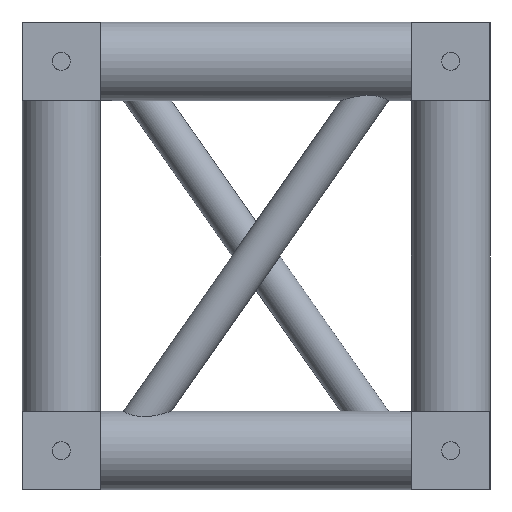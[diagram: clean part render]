
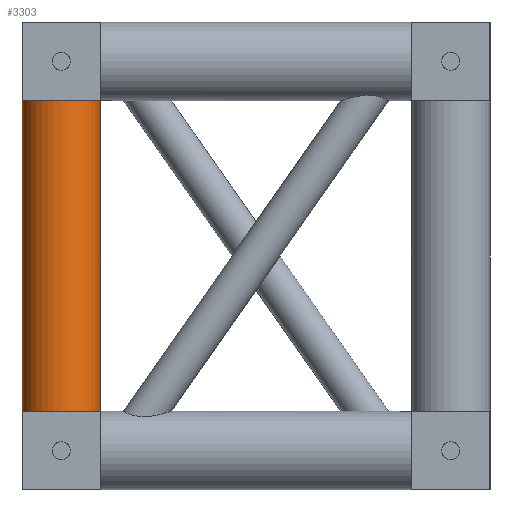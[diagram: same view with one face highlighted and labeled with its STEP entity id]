
A CAD part, front view. The second image highlights one B-rep face of the part: STEP entity #3303.
In plain terms, the highlighted cylindrical face has radius 30 mm (diameter 60 mm), a full revolution.
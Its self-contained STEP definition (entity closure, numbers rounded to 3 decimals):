
#353=ELLIPSE('',#3478,52.303,30.);
#619=FACE_BOUND('',#996,.T.);
#620=FACE_BOUND('',#997,.T.);
#762=FACE_OUTER_BOUND('',#995,.T.);
#995=EDGE_LOOP('',(#2276,#2277,#2278,#2279));
#996=EDGE_LOOP('',(#2280,#2281));
#997=EDGE_LOOP('',(#2282,#2283,#2284,#2285));
#1286=CIRCLE('',#3576,30.);
#1287=CIRCLE('',#3577,30.);
#1288=CIRCLE('',#3578,30.);
#1289=CIRCLE('',#3579,30.);
#1290=CIRCLE('',#3580,30.);
#1291=CIRCLE('',#3581,30.);
#1292=CIRCLE('',#3582,30.);
#1293=CIRCLE('',#3583,30.);
#1394=B_SPLINE_CURVE_WITH_KNOTS('',3,(#5389,#5390,#5391,#5392,#5393,#5394,
#5395,#5396,#5397,#5398,#5399,#5400,#5401,#5402,#5403,#5404,#5405,#5406,
#5407,#5408,#5409,#5410,#5411,#5412,#5413,#5414,#5415,#5416,#5417,#5418,
#5419,#5420,#5421,#5422,#5423,#5424,#5425,#5426,#5427,#5428,#5429,#5430,
#5431,#5432,#5433,#5434,#5435,#5436,#5437,#5438,#5439,#5440,#5441,#5442,
#5443),.UNSPECIFIED.,.F.,.F.,(4,2,2,2,2,2,2,2,3,2,2,2,2,2,2,2,2,2,2,2,2,
2,2,2,2,2,4),(8.174,8.187,8.469,8.75,
9.031,9.343,9.655,9.967,10.279,
11.015,11.75,12.398,12.722,13.046,
13.37,13.694,14.341,15.077,15.812,
16.124,16.436,16.748,17.06,17.342,
17.623,17.904,17.917),.UNSPECIFIED.);
#1409=VERTEX_POINT('',#5387);
#1410=VERTEX_POINT('',#5388);
#1443=VERTEX_POINT('',#5805);
#1471=VERTEX_POINT('',#5901);
#1489=VERTEX_POINT('',#5956);
#1490=VERTEX_POINT('',#5957);
#1491=VERTEX_POINT('',#5960);
#1492=VERTEX_POINT('',#5963);
#1493=VERTEX_POINT('',#5964);
#1494=VERTEX_POINT('',#5966);
#1678=EDGE_CURVE('',#1409,#1410,#1394,.T.);
#1681=EDGE_CURVE('',#1410,#1409,#353,.T.);
#1794=EDGE_CURVE('',#1489,#1490,#1286,.T.);
#1795=EDGE_CURVE('',#1443,#1489,#1287,.T.);
#1796=EDGE_CURVE('',#1491,#1443,#1288,.T.);
#1797=EDGE_CURVE('',#1490,#1491,#1289,.T.);
#1798=EDGE_CURVE('',#1492,#1493,#1290,.T.);
#1799=EDGE_CURVE('',#1494,#1492,#1291,.T.);
#1800=EDGE_CURVE('',#1471,#1494,#1292,.T.);
#1801=EDGE_CURVE('',#1493,#1471,#1293,.T.);
#2276=ORIENTED_EDGE('',*,*,#1794,.F.);
#2277=ORIENTED_EDGE('',*,*,#1795,.F.);
#2278=ORIENTED_EDGE('',*,*,#1796,.F.);
#2279=ORIENTED_EDGE('',*,*,#1797,.F.);
#2280=ORIENTED_EDGE('',*,*,#1678,.T.);
#2281=ORIENTED_EDGE('',*,*,#1681,.T.);
#2282=ORIENTED_EDGE('',*,*,#1798,.F.);
#2283=ORIENTED_EDGE('',*,*,#1799,.F.);
#2284=ORIENTED_EDGE('',*,*,#1800,.F.);
#2285=ORIENTED_EDGE('',*,*,#1801,.F.);
#2972=CYLINDRICAL_SURFACE('',#3575,30.);
#3303=ADVANCED_FACE('',(#762,#619,#620),#2972,.T.);
#3478=AXIS2_PLACEMENT_3D('',#5501,#3963,#3964);
#3575=AXIS2_PLACEMENT_3D('',#5955,#4219,#4220);
#3576=AXIS2_PLACEMENT_3D('',#5958,#4221,#4222);
#3577=AXIS2_PLACEMENT_3D('',#5959,#4223,#4224);
#3578=AXIS2_PLACEMENT_3D('',#5961,#4225,#4226);
#3579=AXIS2_PLACEMENT_3D('',#5962,#4227,#4228);
#3580=AXIS2_PLACEMENT_3D('',#5965,#4229,#4230);
#3581=AXIS2_PLACEMENT_3D('',#5967,#4231,#4232);
#3582=AXIS2_PLACEMENT_3D('',#5968,#4233,#4234);
#3583=AXIS2_PLACEMENT_3D('',#5969,#4235,#4236);
#3963=DIRECTION('center_axis',(0.,-0.819,-0.574));
#3964=DIRECTION('ref_axis',(0.,-0.574,0.819));
#4219=DIRECTION('center_axis',(0.,0.,
1.));
#4220=DIRECTION('ref_axis',(0.578,-0.816,0.));
#4221=DIRECTION('center_axis',(0.,0.,
1.));
#4222=DIRECTION('ref_axis',(0.578,-0.816,0.));
#4223=DIRECTION('center_axis',(0.,0.,
1.));
#4224=DIRECTION('ref_axis',(0.578,-0.816,0.));
#4225=DIRECTION('center_axis',(0.,0.,
1.));
#4226=DIRECTION('ref_axis',(0.578,-0.816,0.));
#4227=DIRECTION('center_axis',(0.,0.,
1.));
#4228=DIRECTION('ref_axis',(0.578,-0.816,0.));
#4229=DIRECTION('center_axis',(0.,0.,
-1.));
#4230=DIRECTION('ref_axis',(0.578,-0.816,0.));
#4231=DIRECTION('center_axis',(0.,0.,
-1.));
#4232=DIRECTION('ref_axis',(0.578,-0.816,0.));
#4233=DIRECTION('center_axis',(0.,0.,
-1.));
#4234=DIRECTION('ref_axis',(0.578,-0.816,0.));
#4235=DIRECTION('center_axis',(0.,0.,
-1.));
#4236=DIRECTION('ref_axis',(0.578,-0.816,0.));
#5387=CARTESIAN_POINT('',(2.736,-267.125,-249.573));
#5388=CARTESIAN_POINT('',(-2.736,-267.125,-249.573));
#5389=CARTESIAN_POINT('Ctrl Pts',(2.736,-267.125,-249.573));
#5390=CARTESIAN_POINT('Ctrl Pts',(2.781,-267.129,-249.566));
#5391=CARTESIAN_POINT('Ctrl Pts',(2.826,-267.133,-249.558));
#5392=CARTESIAN_POINT('Ctrl Pts',(3.836,-267.23,-249.386));
#5393=CARTESIAN_POINT('Ctrl Pts',(4.794,-267.371,-249.134));
#5394=CARTESIAN_POINT('Ctrl Pts',(6.631,-267.727,-248.46));
#5395=CARTESIAN_POINT('Ctrl Pts',(7.511,-267.943,-248.037));
#5396=CARTESIAN_POINT('Ctrl Pts',(9.136,-268.413,-247.042));
#5397=CARTESIAN_POINT('Ctrl Pts',(9.881,-268.665,-246.47));
#5398=CARTESIAN_POINT('Ctrl Pts',(11.27,-269.186,-245.162));
#5399=CARTESIAN_POINT('Ctrl Pts',(11.939,-269.471,-244.37));
#5400=CARTESIAN_POINT('Ctrl Pts',(13.089,-269.998,-242.616));
#5401=CARTESIAN_POINT('Ctrl Pts',(13.569,-270.241,-241.653));
#5402=CARTESIAN_POINT('Ctrl Pts',(14.316,-270.633,-239.629));
#5403=CARTESIAN_POINT('Ctrl Pts',(14.585,-270.783,-238.563));
#5404=CARTESIAN_POINT('Ctrl Pts',(14.926,-270.976,-236.417));
#5405=CARTESIAN_POINT('Ctrl Pts',(15.,-271.019,-235.336));
#5406=CARTESIAN_POINT('Ctrl Pts',(15.,-271.019,-234.296));
#5407=CARTESIAN_POINT('Ctrl Pts',(15.,-271.019,-231.845));
#5408=CARTESIAN_POINT('Ctrl Pts',(14.588,-270.772,-229.23));
#5409=CARTESIAN_POINT('Ctrl Pts',(13.061,-269.979,-224.248));
#5410=CARTESIAN_POINT('Ctrl Pts',(11.946,-269.444,-221.879));
#5411=CARTESIAN_POINT('Ctrl Pts',(9.427,-268.492,-218.137));
#5412=CARTESIAN_POINT('Ctrl Pts',(7.886,-267.996,-216.415));
#5413=CARTESIAN_POINT('Ctrl Pts',(5.163,-267.433,-214.549));
#5414=CARTESIAN_POINT('Ctrl Pts',(4.187,-267.276,-214.045));
#5415=CARTESIAN_POINT('Ctrl Pts',(2.145,-267.059,-213.355));
#5416=CARTESIAN_POINT('Ctrl Pts',(1.08,-267.,-213.17));
#5417=CARTESIAN_POINT('Ctrl Pts',(-1.08,-267.,-213.17));
#5418=CARTESIAN_POINT('Ctrl Pts',(-2.145,-267.059,-213.355));
#5419=CARTESIAN_POINT('Ctrl Pts',(-4.187,-267.276,-214.045));
#5420=CARTESIAN_POINT('Ctrl Pts',(-5.163,-267.433,-214.549));
#5421=CARTESIAN_POINT('Ctrl Pts',(-7.886,-267.996,-216.415));
#5422=CARTESIAN_POINT('Ctrl Pts',(-9.427,-268.492,-218.137));
#5423=CARTESIAN_POINT('Ctrl Pts',(-11.946,-269.444,-221.879));
#5424=CARTESIAN_POINT('Ctrl Pts',(-13.061,-269.979,-224.248));
#5425=CARTESIAN_POINT('Ctrl Pts',(-14.588,-270.772,-229.23));
#5426=CARTESIAN_POINT('Ctrl Pts',(-15.,-271.019,-231.845));
#5427=CARTESIAN_POINT('Ctrl Pts',(-15.,-271.019,-235.336));
#5428=CARTESIAN_POINT('Ctrl Pts',(-14.926,-270.976,-236.417));
#5429=CARTESIAN_POINT('Ctrl Pts',(-14.585,-270.783,-238.563));
#5430=CARTESIAN_POINT('Ctrl Pts',(-14.316,-270.633,-239.629));
#5431=CARTESIAN_POINT('Ctrl Pts',(-13.569,-270.241,-241.653));
#5432=CARTESIAN_POINT('Ctrl Pts',(-13.089,-269.998,-242.616));
#5433=CARTESIAN_POINT('Ctrl Pts',(-11.939,-269.471,-244.37));
#5434=CARTESIAN_POINT('Ctrl Pts',(-11.27,-269.186,-245.162));
#5435=CARTESIAN_POINT('Ctrl Pts',(-9.881,-268.665,-246.47));
#5436=CARTESIAN_POINT('Ctrl Pts',(-9.136,-268.413,-247.042));
#5437=CARTESIAN_POINT('Ctrl Pts',(-7.511,-267.943,-248.037));
#5438=CARTESIAN_POINT('Ctrl Pts',(-6.631,-267.727,-248.46));
#5439=CARTESIAN_POINT('Ctrl Pts',(-4.794,-267.371,-249.134));
#5440=CARTESIAN_POINT('Ctrl Pts',(-3.836,-267.23,-249.386));
#5441=CARTESIAN_POINT('Ctrl Pts',(-2.826,-267.133,-249.558));
#5442=CARTESIAN_POINT('Ctrl Pts',(-2.781,-267.129,-249.566));
#5443=CARTESIAN_POINT('Ctrl Pts',(-2.736,-267.125,-249.573));
#5501=CARTESIAN_POINT('Origin',(0.,-297.,-206.907));
#5805=CARTESIAN_POINT('',(30.,-297.,-30.));
#5901=CARTESIAN_POINT('',(30.,-297.,-267.));
#5955=CARTESIAN_POINT('Origin',(0.,-297.,-267.));
#5956=CARTESIAN_POINT('',(0.,-267.,-30.));
#5957=CARTESIAN_POINT('',(-30.,-297.,-30.));
#5958=CARTESIAN_POINT('Origin',(0.,-297.,-30.));
#5959=CARTESIAN_POINT('Origin',(0.,-297.,-30.));
#5960=CARTESIAN_POINT('',(0.,-327.,-30.));
#5961=CARTESIAN_POINT('Origin',(0.,-297.,-30.));
#5962=CARTESIAN_POINT('Origin',(0.,-297.,-30.));
#5963=CARTESIAN_POINT('',(-30.,-297.,-267.));
#5964=CARTESIAN_POINT('',(0.,-267.,-267.));
#5965=CARTESIAN_POINT('Origin',(0.,-297.,-267.));
#5966=CARTESIAN_POINT('',(0.,-327.,-267.));
#5967=CARTESIAN_POINT('Origin',(0.,-297.,-267.));
#5968=CARTESIAN_POINT('Origin',(0.,-297.,-267.));
#5969=CARTESIAN_POINT('Origin',(0.,-297.,-267.));
